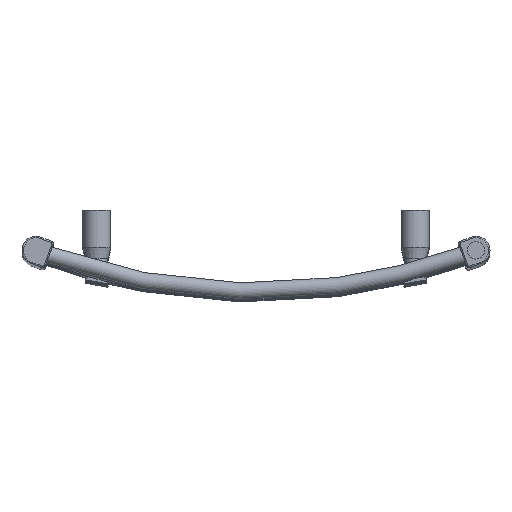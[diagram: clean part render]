
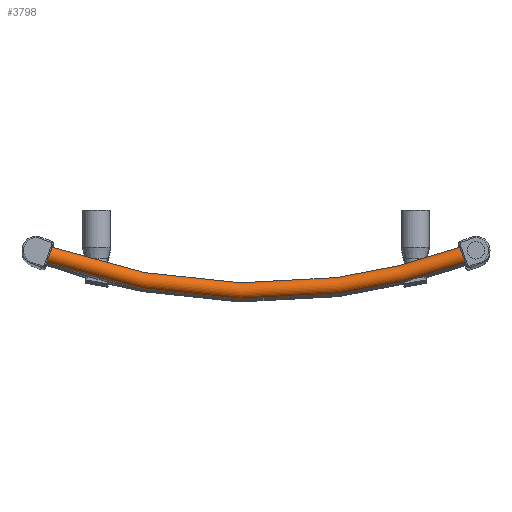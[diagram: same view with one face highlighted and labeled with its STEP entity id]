
A CAD part, top view. The second image highlights one B-rep face of the part: STEP entity #3798.
In plain terms, the highlighted toroidal (fillet/blend) face has major radius 650 mm and minor radius 9 mm.
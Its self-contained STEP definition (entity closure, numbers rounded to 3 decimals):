
#3771=CARTESIAN_POINT('',(0.,650.,1449.));
#3772=DIRECTION('',(0.,0.,1.0));
#3773=DIRECTION('',(1.0,0.0,0.0));
#3774=AXIS2_PLACEMENT_3D('',#3771,#3772,#3773);
#3775=TOROIDAL_SURFACE('',#3774,650.,9.0);
#3776=CARTESIAN_POINT('',(217.834,47.149,1449.));
#3777=VERTEX_POINT('',#3776);
#3778=CARTESIAN_POINT('',(220.893,38.685,1449.));
#3779=DIRECTION('',(0.94,0.34,0.));
#3780=DIRECTION('',(0.34,-0.94,0.));
#3781=AXIS2_PLACEMENT_3D('',#3778,#3779,#3780);
#3782=CIRCLE('',#3781,9.);
#3783=EDGE_CURVE('',#3777,#3777,#3782,.T.);
#3784=ORIENTED_EDGE('',*,*,#3783,.F.);
#3785=EDGE_LOOP('',(#3784));
#3786=FACE_OUTER_BOUND('',#3785,.T.);
#3787=CARTESIAN_POINT('',(-217.834,47.149,1449.));
#3788=VERTEX_POINT('',#3787);
#3789=CARTESIAN_POINT('',(-220.893,38.685,1449.));
#3790=DIRECTION('',(-0.94,0.34,0.));
#3791=DIRECTION('',(-0.34,-0.94,0.));
#3792=AXIS2_PLACEMENT_3D('',#3789,#3790,#3791);
#3793=CIRCLE('',#3792,9.);
#3794=EDGE_CURVE('',#3788,#3788,#3793,.T.);
#3795=ORIENTED_EDGE('',*,*,#3794,.F.);
#3796=EDGE_LOOP('',(#3795));
#3797=FACE_BOUND('',#3796,.T.);
#3798=ADVANCED_FACE('',(#3786,#3797),#3775,.T.);
